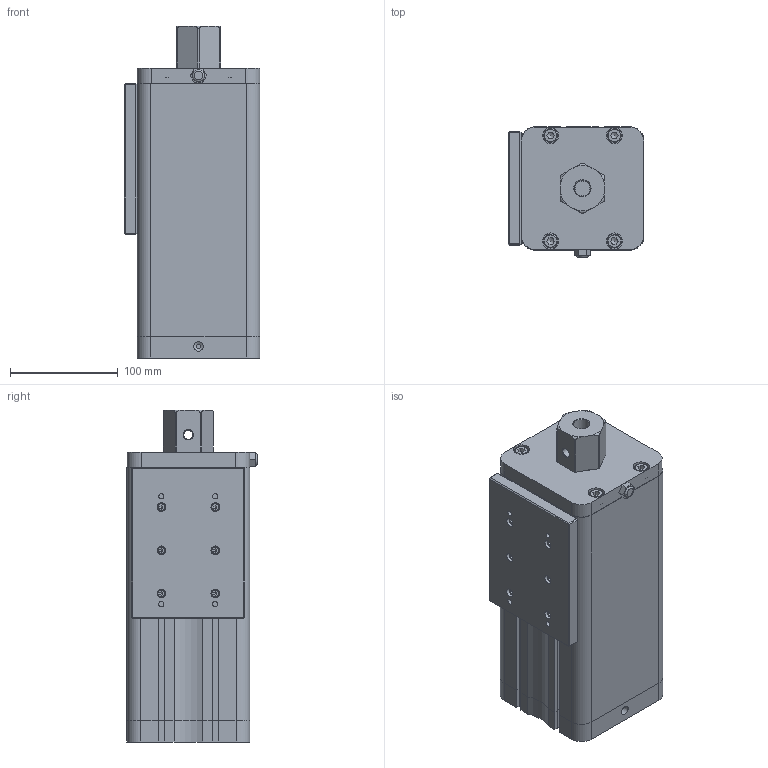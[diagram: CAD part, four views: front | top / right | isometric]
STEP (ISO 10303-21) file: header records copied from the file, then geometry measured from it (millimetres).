
FILE_DESCRIPTION(/* description */ (''),/* implementation_level */ '2;1');
FILE_NAME(/* name */ '1410.35.00 fr Kunden.stp',/* time_stamp */ '2025-11-17T11:09:18+01:00',/* author */ ('HWalkhoff'),/* organization */ (''),/* preprocessor_version */ 'ST-DEVELOPER v20.1',/* originating_system */ 'Autodesk Inventor 2026',/* authorisation */ '');
FILE_SCHEMA (('AUTOMOTIVE_DESIGN { 1 0 10303 214 3 1 1 }'));
Length unit declared in the file: millimetre
Products named in the file (9): 1410.35.00 für Kunden; 1410.35.21; 1410.35.15 K; Aufnahmedeckel K; 1410.35.22; DIN 7500 EE-M8 x 30; J-SD5-1/8-SB-S; 1410.35.17; DIN 912 - M4 x 12
Assembly tree (20 placements, depth 2):
  1410.35.00 für Kunden
    1410.35.21
    1410.35.15 K
    Aufnahmedeckel K
    DIN 7500 EE-M8 x 30  x8
    1410.35.22
    J-SD5-1/8-SB-S
    1410.35.17
    DIN 912 - M4 x 12  x6
Bounding box: 125.8 x 120.65 x 307.6 mm (x, y, z)
Volume: 1416942.1 mm3; surface area: 472221.5 mm2
Topology: 20 solids, 20 shells, 777 faces, 1961 edges, 1271 vertices
Faces by surface type: plane 339, cylinder 287, torus 76, cone 51, bspline 24
Full cylindrical faces by diameter (mm): 4 x7, 4.5 x6, 4.917 x4, 6 x1, 6.5 x1, 7 x6, 7.5 x4, 8 x14, 8.376 x4, 8.5 x1, 8.566 x4, 8.7 x4, 9 x4, 9.73 x1, 12 x1, 13 x8, 13.5 x4, 14 x1, 14.1 x4, 14.4 x1, 14.95 x1, 15 x4, 30 x1, 37 x1, 40 x3, 41.3 x1, 52 x1, 61 x1, 70 x1, 94 x1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
Entity records: 19816 total; most frequent: CARTESIAN_POINT 4354, DIRECTION 3336, ORIENTED_EDGE 3050, EDGE_CURVE 1525, AXIS2_PLACEMENT_3D 1298, VERTEX_POINT 983, LINE 740, VECTOR 740
